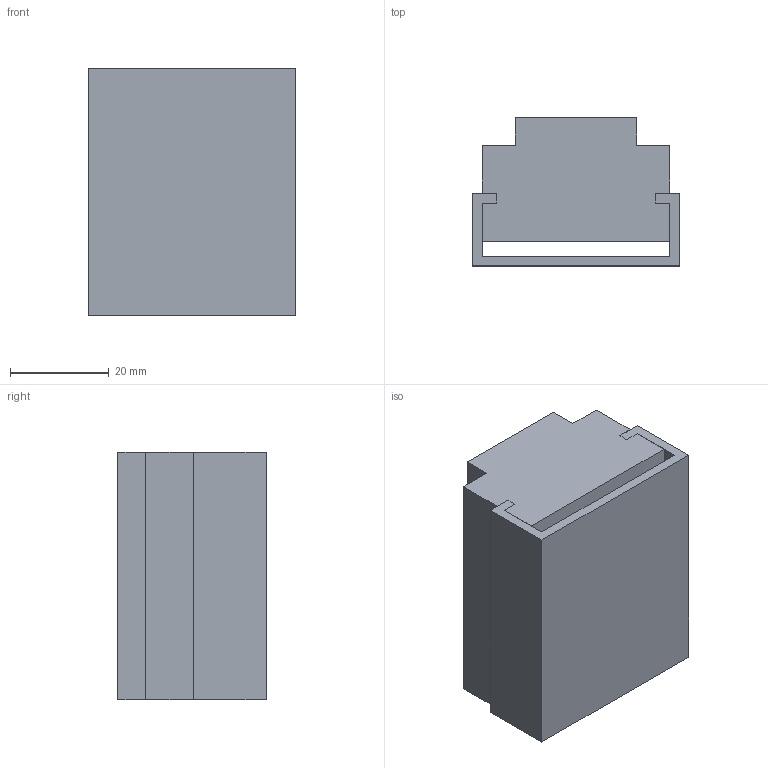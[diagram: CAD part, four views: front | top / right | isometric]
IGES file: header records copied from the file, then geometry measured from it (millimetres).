
Start section: SolidWorks IGES file using analytic representation for surfaces
Global section: file name: C:\Documents and Settings\ARGE\Desktop\yeni katalog tolgay düzenli\E kataloðu\ALPOLEN 1000 T MODEL ÇELÝK PROFÝLLÝ ZÝNCÝR KIZAKLARI\207 H25 212.IGS; native system: SolidWorks 2006 by SolidWorks Corporation; preprocessor: SolidWorks 2006 by SolidWorks Corporation; author: ARGE2; date: 060913.085911; units: millimetre
Bounding box: 42 x 30 x 50 mm (x, y, z)
Surface area: 16459.5 mm2 (no closed solid volume)
Topology: 0 solids, 0 shells, 32 faces, 168 edges, 168 vertices
Faces by surface type: bspline 32
